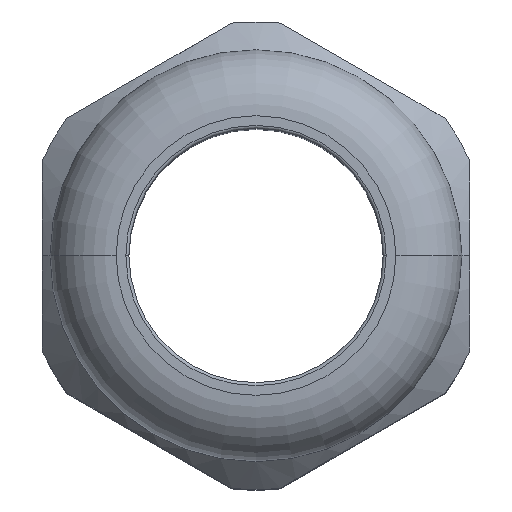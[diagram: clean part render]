
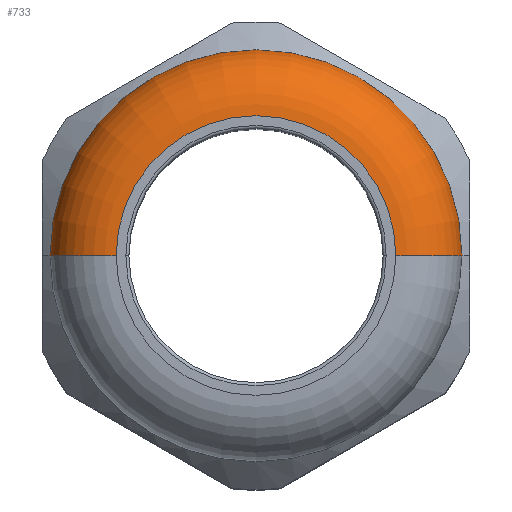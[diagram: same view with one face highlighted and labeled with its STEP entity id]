
A CAD part, top view. The second image highlights one B-rep face of the part: STEP entity #733.
In plain terms, the highlighted toroidal (fillet/blend) face has major radius 13.75 mm and minor radius 6.5 mm.
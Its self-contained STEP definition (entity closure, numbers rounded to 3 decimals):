
#621 = VERTEX_POINT ( 'NONE', #2474 ) ;
#664 = ORIENTED_EDGE ( 'NONE', *, *, #802, .F. ) ;
#733 = ADVANCED_FACE ( 'NONE', ( #2203 ), #2200, .T. ) ;
#735 = EDGE_LOOP ( 'NONE', ( #736, #764, #758, #664 ) ) ;
#736 = ORIENTED_EDGE ( 'NONE', *, *, #737, .T. ) ;
#737 = EDGE_CURVE ( 'NONE', #760, #761, #2196, .T. ) ;
#758 = ORIENTED_EDGE ( 'NONE', *, *, #832, .F. ) ;
#760 = VERTEX_POINT ( 'NONE', #2214 ) ;
#761 = VERTEX_POINT ( 'NONE', #2275 ) ;
#764 = ORIENTED_EDGE ( 'NONE', *, *, #765, .T. ) ;
#765 = EDGE_CURVE ( 'NONE', #761, #775, #2273, .T. ) ;
#775 = VERTEX_POINT ( 'NONE', #2247 ) ;
#802 = EDGE_CURVE ( 'NONE', #760, #621, #2606, .T. ) ;
#832 = EDGE_CURVE ( 'NONE', #621, #775, #2575, .T. ) ;
#2192 = DIRECTION ( 'NONE',  ( -1., 0., 0. ) ) ;
#2193 = DIRECTION ( 'NONE',  ( 0., 0., -1. ) ) ;
#2194 = CARTESIAN_POINT ( 'NONE',  ( 0., 0., 57. ) ) ;
#2195 = AXIS2_PLACEMENT_3D ( 'NONE', #2194, #2193, #2192 ) ;
#2196 = CIRCLE ( 'NONE', #2195, 13.75 ) ;
#2197 = DIRECTION ( 'NONE',  ( -1., 0., 0. ) ) ;
#2198 = DIRECTION ( 'NONE',  ( 0., 0., -1. ) ) ;
#2199 = AXIS2_PLACEMENT_3D ( 'NONE', #2202, #2198, #2197 ) ;
#2200 = TOROIDAL_SURFACE ( 'NONE', #2199, 13.75, 6.5 ) ;
#2202 = CARTESIAN_POINT ( 'NONE',  ( 0., 0., 50.5 ) ) ;
#2203 = FACE_OUTER_BOUND ( 'NONE', #735, .T. ) ;
#2214 = CARTESIAN_POINT ( 'NONE',  ( -13.75, 0., 57. ) ) ;
#2247 = CARTESIAN_POINT ( 'NONE',  ( 20.25, 0., 50.5 ) ) ;
#2269 = DIRECTION ( 'NONE',  ( -1., 0., 0. ) ) ;
#2270 = DIRECTION ( 'NONE',  ( 0., 1., 0. ) ) ;
#2271 = CARTESIAN_POINT ( 'NONE',  ( 13.75, 0., 50.5 ) ) ;
#2272 = AXIS2_PLACEMENT_3D ( 'NONE', #2271, #2270, #2269 ) ;
#2273 = CIRCLE ( 'NONE', #2272, 6.5 ) ;
#2275 = CARTESIAN_POINT ( 'NONE',  ( 13.75, 0., 57. ) ) ;
#2474 = CARTESIAN_POINT ( 'NONE',  ( -20.25, 0., 50.5 ) ) ;
#2574 = AXIS2_PLACEMENT_3D ( 'NONE', #2583, #2582, #2581 ) ;
#2575 = CIRCLE ( 'NONE', #2574, 20.25 ) ;
#2581 = DIRECTION ( 'NONE',  ( -1., 0., 0. ) ) ;
#2582 = DIRECTION ( 'NONE',  ( 0., 0., -1. ) ) ;
#2583 = CARTESIAN_POINT ( 'NONE',  ( 0., 0., 50.5 ) ) ;
#2593 = AXIS2_PLACEMENT_3D ( 'NONE', #2598, #2607, #2605 ) ;
#2598 = CARTESIAN_POINT ( 'NONE',  ( -13.75, 0., 50.5 ) ) ;
#2605 = DIRECTION ( 'NONE',  ( 0., 0., -1. ) ) ;
#2606 = CIRCLE ( 'NONE', #2593, 6.5 ) ;
#2607 = DIRECTION ( 'NONE',  ( 0., -1., 0. ) ) ;
